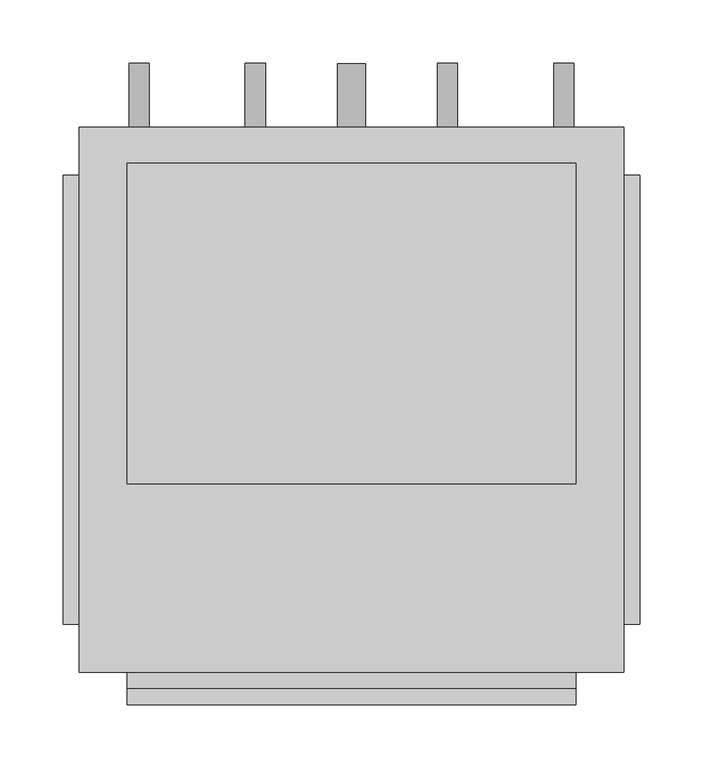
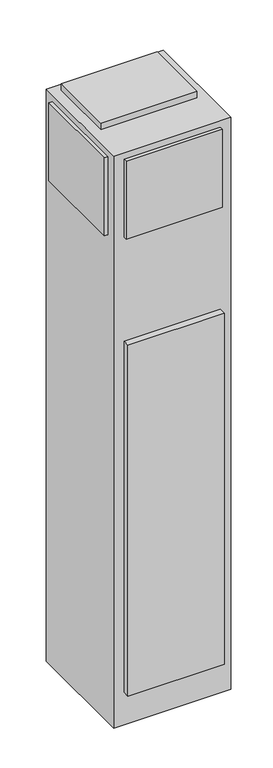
"""IFC4 building model written with IfcOpenShell, lengths in millimetres: proxy geometry, Concealed_Universal_Modular_Fan_Coil_Unit_-_42SUB_-_CARRIER_-_4-Pipe_-_NoRisers_2022 : Size 03 - 277v/60Hz/1Ph - 4/1 Coil."""

from ifc_helpers import new_model, si_unit, point, frame, frame_2d, origin, origin_with_axes, place, context, project, spatial, polyline, circle_curve, trimmed, segment, composite_curve, outline, extrude, source, transform, mapped, element, save


def mechanical_equipment_de3bccae(model_context):
    return source(origin(), model_context, "Body", "SweptSolid", [
        extrude(outline(composite_curve([segment(trimmed(circle_curve(frame_2d((990.6, 536.575)), 7.9375), [point((990.6, 528.6375))], [point((990.6, 544.5125))], False, "CARTESIAN"), True, "CONTINUOUS"), segment(trimmed(circle_curve(frame_2d((990.6, 536.575)), 7.9375), [point((990.6, 544.5125))], [point((990.6, 528.6375))], False, "CARTESIAN"), True, "CONTINUOUS")], self_intersect=False)), frame((0.0, 244.475, 0.0), z_axis=(0.0, 1.0, 0.0), x_axis=(0.0, 0.0, 1.0)), (0.0, 0.0, 1.0), 50.8),
        extrude(outline(composite_curve([segment(trimmed(circle_curve(frame_2d((990.6, 444.5)), 7.9375), [point((990.6, 436.5625))], [point((990.6, 452.4375))], False, "CARTESIAN"), True, "CONTINUOUS"), segment(trimmed(circle_curve(frame_2d((990.6, 444.5)), 7.9375), [point((990.6, 452.4375))], [point((990.6, 436.5625))], False, "CARTESIAN"), True, "CONTINUOUS")], self_intersect=False)), frame((0.0, 244.475, 0.0), z_axis=(0.0, 1.0, 0.0), x_axis=(0.0, 0.0, 1.0)), (0.0, 0.0, 1.0), 50.8),
        extrude(outline(composite_curve([segment(trimmed(circle_curve(frame_2d((990.6, 292.1)), 7.9375), [point((990.6, 284.1625))], [point((990.6, 300.0375))], False, "CARTESIAN"), True, "CONTINUOUS"), segment(trimmed(circle_curve(frame_2d((990.6, 292.1)), 7.9375), [point((990.6, 300.0375))], [point((990.6, 284.1625))], False, "CARTESIAN"), True, "CONTINUOUS")], self_intersect=False)), frame((0.0, 244.475, 0.0), z_axis=(0.0, 1.0, 0.0), x_axis=(0.0, 0.0, 1.0)), (0.0, 0.0, 1.0), 50.8),
        extrude(outline(composite_curve([segment(trimmed(circle_curve(frame_2d((990.6, 200.025)), 7.9375), [point((990.6, 192.0875))], [point((990.6, 207.9625))], False, "CARTESIAN"), True, "CONTINUOUS"), segment(trimmed(circle_curve(frame_2d((990.6, 200.025)), 7.9375), [point((990.6, 207.9625))], [point((990.6, 192.0875))], False, "CARTESIAN"), True, "CONTINUOUS")], self_intersect=False)), frame((0.0, 244.475, 0.0), z_axis=(0.0, 1.0, 0.0), x_axis=(0.0, 0.0, 1.0)), (0.0, 0.0, 1.0), 50.8),
        extrude(outline(composite_curve([segment(trimmed(circle_curve(frame_2d((76.2, 368.3)), 11.1125), [point((76.2, 357.1875))], [point((76.2, 379.4125))], False, "CARTESIAN"), True, "CONTINUOUS"), segment(trimmed(circle_curve(frame_2d((76.2, 368.3)), 11.1125), [point((76.2, 379.4125))], [point((76.2, 357.1875))], False, "CARTESIAN"), True, "CONTINUOUS")], self_intersect=False)), frame((0.0, 244.475, 0.0), z_axis=(0.0, 1.0, 0.0), x_axis=(0.0, 0.0, 1.0)), (0.0, 0.0, 1.0), 50.8),
        extrude(outline(polyline([(546.1, 215.9), (546.1, -38.1), (190.5, -38.1), (190.5, 215.9), (546.1, 215.9)])), frame((0.0, 0.0, 2235.2), z_axis=(0.0, 0.0, 1.0), x_axis=(1.0, 0.0, 0.0)), (0.0, 0.0, 1.0), 25.4),
        extrude(outline(polyline([(139.7, -149.225), (139.7, 206.375), (152.4, 206.375), (152.4, -149.225), (139.7, -149.225)])), frame((0.0, 0.0, 1905.0), z_axis=(0.0, 0.0, 1.0), x_axis=(1.0, 0.0, 0.0)), (0.0, 0.0, 1.0), 304.8),
        extrude(outline(polyline([(596.9, 206.375), (596.9, -149.225), (584.2, -149.225), (584.2, 206.375), (596.9, 206.375)])), frame((0.0, 0.0, 1905.0), z_axis=(0.0, 0.0, 1.0), x_axis=(1.0, 0.0, 0.0)), (0.0, 0.0, 1.0), 304.8),
        extrude(outline(polyline([(546.1, -200.025), (190.5, -200.025), (190.5, -187.325), (546.1, -187.325), (546.1, -200.025)])), frame((0.0, 0.0, 1905.0), z_axis=(0.0, 0.0, 1.0), x_axis=(1.0, 0.0, 0.0)), (0.0, 0.0, 1.0), 304.8),
        extrude(outline(polyline([(546.1, -212.725), (190.5, -212.725), (190.5, -187.325), (546.1, -187.325), (546.1, -212.725)])), frame((0.0, 0.0, 127.0), z_axis=(0.0, 0.0, 1.0), x_axis=(1.0, 0.0, 0.0)), (0.0, 0.0, 1.0), 1371.6),
        extrude(outline(polyline([(584.2, 244.475), (584.2, -187.325), (152.4, -187.325), (152.4, 244.475), (584.2, 244.475)])), origin_with_axes(), (0.0, 0.0, 1.0), 2235.2),
    ])


if __name__ == "__main__":
    model = new_model("IFC4")
    model_context = context("Model", 3, world=origin())
    ifc_project = project(units=[si_unit("LENGTHUNIT", "METRE", prefix="MILLI")], contexts=[model_context])
    site = spatial("IfcSite", under=ifc_project)
    building = spatial("IfcBuilding", under=site)
    placement = place(None, origin())
    mechanical_equipment_shape = mechanical_equipment_de3bccae(model_context)
    element("IfcBuildingElementProxy", 1, Name="Concealed_Universal_Modular_Fan_Coil_Unit_-_42SUB_-_CARRIER_-_4-Pipe_-_NoRisers_2022 : Size 03 - 277v/60Hz/1Ph - 4/1 Coil", ObjectType="Concealed_Universal_Modular_Fan_Coil_Unit_-_42SUB_-_CARRIER_-_4-Pipe_-_NoRisers_2022 : Size 03 - 277v/60Hz/1Ph - 4/1 Coil", at=placement, inside=building, context=model_context, shape_type="MappedRepresentation", body=[
        mapped(mechanical_equipment_shape, transform((0.0, 0.0, 0.0), x_axis=(1.0, 0.0, 0.0), y_axis=(0.0, 1.0, 0.0), z_axis=(0.0, 0.0, 1.0))),
    ])
    save(model, "model.ifc")
